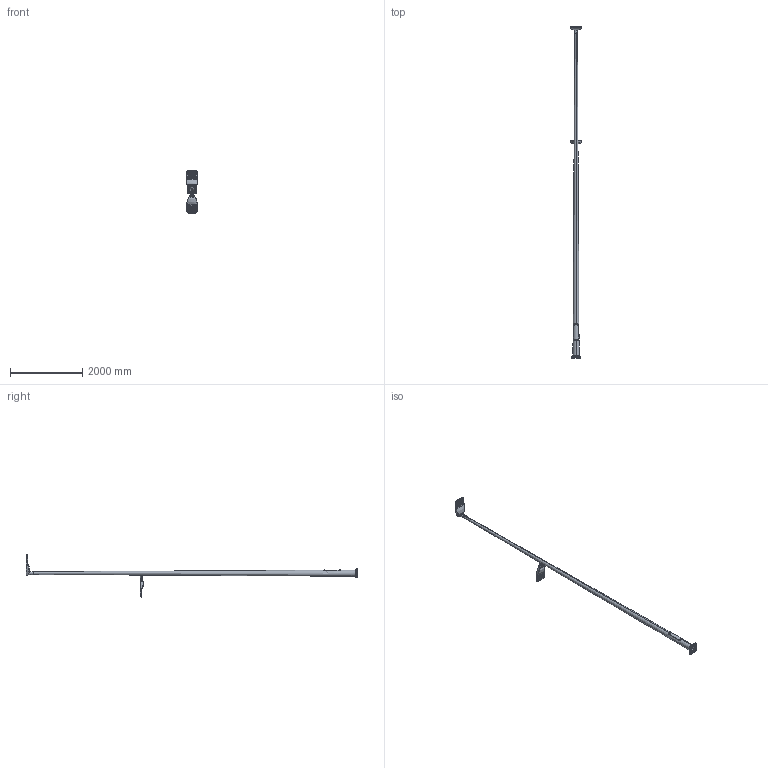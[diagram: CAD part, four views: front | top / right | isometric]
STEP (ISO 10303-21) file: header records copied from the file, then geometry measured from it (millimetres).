
FILE_DESCRIPTION (( 'STEP AP214' ), '1' );
FILE_NAME ('verta-2-9(105)-6(60)-(Ê240-180-4õ25)-ö+ïî.STEP', '2021-07-13T08:59:05', ( '' ), ( '' ), 'SwSTEP 2.0', 'SolidWorks 2020', '' );
FILE_SCHEMA (( 'AUTOMOTIVE_DESIGN' ));
Length unit declared in the file: millimetre
Products named in the file (22): 署赅 膻赅-verta-9; DIN-ðåéêà_ŽƒŠ-6; BS-240(Ä174)-Ïëàòèê; BS-240(Ä174)- Äåêîðàòèâíûé öîêîëü; SL7502-疋弪桦桕_2; SL7503-疋弪桦桕_2; 膴樖錼膻嬅180 蜸馯; Ñòàíäàðíûå_Ðåçüáîâàÿ çàêë¸ïêà Ì6_Šàã£« ï à¥§ì¡®¢ ï § ª«¥¯ª  Œ8 á æ¨«¨­¤à¨ç¥áª¨¬ ¡ãàâ®¬ ®âªàëâ®£® â¨¯  ¨§ ­¥à¦ ¢¥îé¥© áâ «¨; Ñâåòèëüíèê SL7502 Âåðòà 80-110 Âò_90 ãðàä; 240õ240õ12 (185),ì.ö.180, 4õ25_Ôëàíåö; Îïîðà verta-2-9(105)-6(60)-(Ê240-180-4õ25)-ãö+ïî; BS-240(Ä174) -ïîëóêðûøêà (240-174); verta-2-9(105)-6(60)-(Ê240-180-4õ25)-ö+ïî; BS-240(Ä174)-Ïîëóêðûøêà (240-174); Ïëàíêà çàçåìëåíèÿ 35õ20; êðåïëåíèå  1; socket button head screw_iso_ISO 7380 - M6 x 16 - 16N; Ñâåòèëüíèê SL7503-Âåðòà 40-60 Âò_180 ãðàä; 栺鍣罻-verta-2-9; ﾒ矜-verta-9
Assembly tree (28 placements, depth 4):
  verta-2-9(105)-6(60)-(Ê240-180-4õ25)-ö+ïî
    Îïîðà verta-2-9(105)-6(60)-(Ê240-180-4õ25)-ãö+ïî
      栺鍣罻-verta-2-9
        栺鍣罻-verta-2-9
        240õ240õ12 (185),ì.ö.180, 4õ25_Ôëàíåö
        Ïëàíêà çàçåìëåíèÿ 35õ20
        DIN-ðåéêà_ŽƒŠ-6
        ﾒ矜-verta-9  x2
      署赅 膻赅-verta-9
      Ñòàíäàðíûå_Ðåçüáîâàÿ çàêë¸ïêà Ì6_Šàã£« ï à¥§ì¡®¢ ï § ª«¥¯ª  Œ8 á æ¨«¨­¤à¨ç¥áª¨¬ ¡ãàâ®¬ ®âªàëâ®£® â¨¯  ¨§ ­¥à¦ ¢¥îé¥© áâ «¨  x2
      socket button head screw_iso_ISO 7380 - M6 x 16 - 16N  x2
    Ñâåòèëüíèê SL7503-Âåðòà 40-60 Âò_180 ãðàä
      膴樖錼膻嬅180 蜸馯
      SL7503-疋弪桦桕_2
    Ñâåòèëüíèê SL7502 Âåðòà 80-110 Âò_90 ãðàä
      êðåïëåíèå  1
      SL7502-疋弪桦桕_2
    BS-240(Ä174)- Äåêîðàòèâíûé öîêîëü
      BS-240(Ä174)-Ïîëóêðûøêà (240-174)
        BS-240(Ä174) -ïîëóêðûøêà (240-174)
        BS-240(Ä174)-Ïëàòèê
      BS-240(Ä174)-Ïîëóêðûøêà (240-174)
        BS-240(Ä174) -ïîëóêðûøêà (240-174)
        BS-240(Ä174)-Ïëàòèê
      socket button head screw_iso_ISO 7380 - M6 x 16 - 16N  x2
Bounding box: 318 x 9207.17 x 1174.59 mm (x, y, z)
Volume: 24585833.5 mm3; surface area: 8401541.3 mm2
Topology: 21 solids, 21 shells, 1188 faces, 2748 edges, 1712 vertices
Faces by surface type: plane 514, cone 256, cylinder 240, bspline 116, torus 38, sphere 24
Entity records: 54064 total; most frequent: CARTESIAN_POINT 26210, DIRECTION 4699, ORIENTED_EDGE 4662, EDGE_CURVE 2331, AXIS2_PLACEMENT_3D 1777, VERTEX_POINT 1479, EDGE_LOOP 1164, LINE 1145
